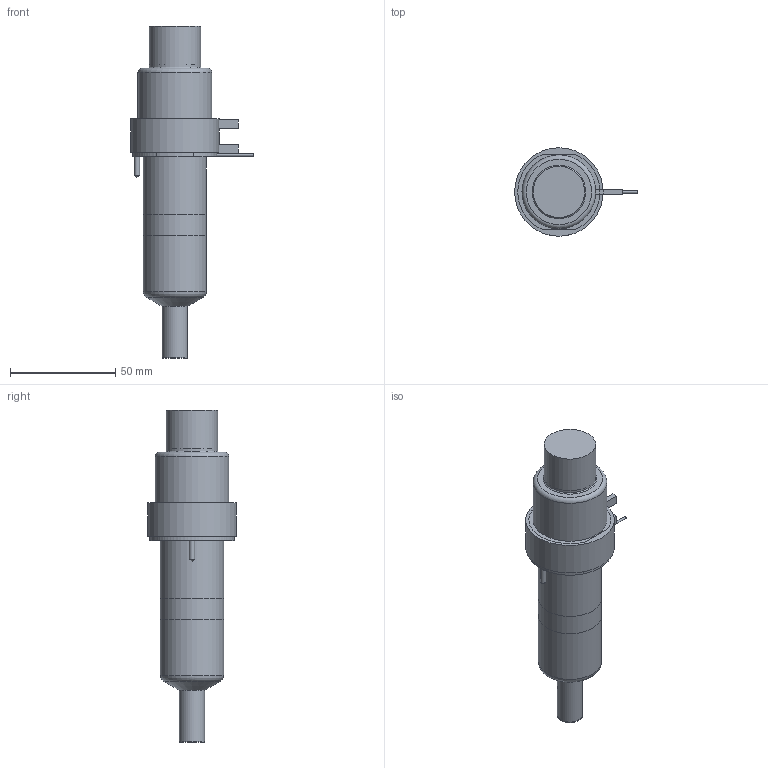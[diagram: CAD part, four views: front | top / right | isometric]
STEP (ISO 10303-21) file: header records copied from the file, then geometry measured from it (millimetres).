
FILE_DESCRIPTION(/* description */ (''),/* implementation_level */ '2;1');
FILE_NAME(/* name */ 'SXYCN16075N3U_250C_a',/* time_stamp */ '2016-03-04T13:29:38+13:00',/* author */ (''),/* organization */ (''),/* preprocessor_version */ 'ST-DEVELOPER v9',/* originating_system */ 'UGS - NX 4.0',/* authorisation */ '');
FILE_SCHEMA (('CONFIG_CONTROL_DESIGN'));
Length unit declared in the file: millimetre
Products named in the file (1): mattD74Dhegw
Bounding box: 58.25 x 42 x 157.53 mm (x, y, z)
Volume: 190667 mm3; surface area: 34146.2 mm2
Topology: 7 solids, 7 shells, 91 faces, 175 edges, 112 vertices
Faces by surface type: plane 45, cylinder 29, torus 8, cone 7, bspline 1, sphere 1
Full cylindrical faces by diameter (mm): 1 x3, 1.5 x1, 2.5 x2, 5 x1, 7 x1, 11.61 x1, 11.995 x2, 14.8 x1, 24 x1, 24.4 x1, 25.4 x1, 30 x2, 31.8 x1, 35 x1, 40 x1, 42 x1
Entity records: 2230 total; most frequent: CARTESIAN_POINT 435, DIRECTION 378, ORIENTED_EDGE 266, AXIS2_PLACEMENT_3D 164, EDGE_LOOP 140, EDGE_CURVE 133, VERTEX_POINT 106, ADVANCED_FACE 91
